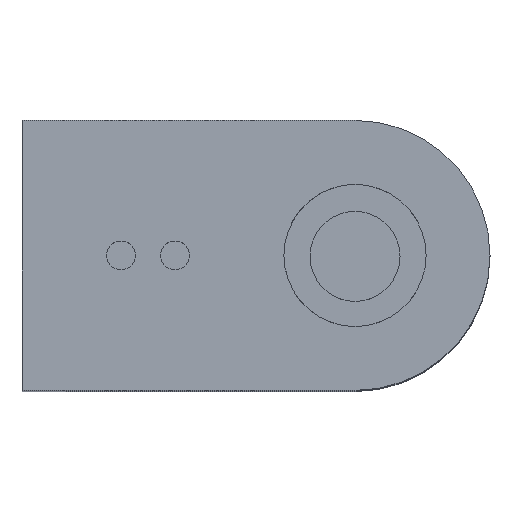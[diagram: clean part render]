
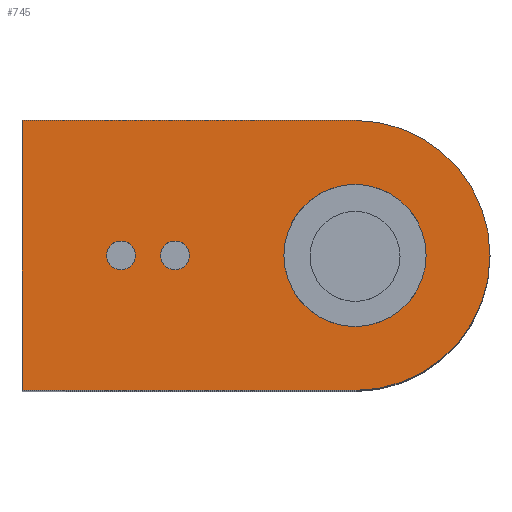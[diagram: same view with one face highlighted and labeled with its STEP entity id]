
A CAD part, top view. The second image highlights one B-rep face of the part: STEP entity #745.
In plain terms, the highlighted planar face has unit normal (0, 0, 1).
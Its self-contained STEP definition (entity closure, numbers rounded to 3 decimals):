
#531 = EDGE_CURVE('',#532,#532,#534,.T.);
#532 = VERTEX_POINT('',#533);
#533 = CARTESIAN_POINT('',(3.95,0.,7.));
#534 = CIRCLE('',#535,3.95);
#535 = AXIS2_PLACEMENT_3D('',#536,#537,#538);
#536 = CARTESIAN_POINT('',(0.,0.,7.));
#537 = DIRECTION('',(0.,0.,1.));
#538 = DIRECTION('',(1.,0.,-0.));
#592 = VERTEX_POINT('',#593);
#593 = CARTESIAN_POINT('',(0.,7.5,7.));
#599 = EDGE_CURVE('',#600,#592,#602,.T.);
#600 = VERTEX_POINT('',#601);
#601 = CARTESIAN_POINT('',(7.5,0.,7.));
#602 = CIRCLE('',#603,7.5);
#603 = AXIS2_PLACEMENT_3D('',#604,#605,#606);
#604 = CARTESIAN_POINT('',(0.,0.,7.));
#605 = DIRECTION('',(0.,0.,1.));
#606 = DIRECTION('',(1.,0.,-0.));
#608 = EDGE_CURVE('',#609,#600,#611,.T.);
#609 = VERTEX_POINT('',#610);
#610 = CARTESIAN_POINT('',(0.,-7.5,7.));
#611 = CIRCLE('',#612,7.5);
#612 = AXIS2_PLACEMENT_3D('',#613,#614,#615);
#613 = CARTESIAN_POINT('',(0.,0.,7.));
#614 = DIRECTION('',(0.,0.,1.));
#615 = DIRECTION('',(1.,0.,-0.));
#635 = VERTEX_POINT('',#636);
#636 = CARTESIAN_POINT('',(-18.5,-7.5,7.));
#642 = EDGE_CURVE('',#635,#643,#645,.T.);
#643 = VERTEX_POINT('',#644);
#644 = CARTESIAN_POINT('',(-18.5,7.5,7.));
#645 = LINE('',#646,#647);
#646 = CARTESIAN_POINT('',(-18.5,-7.5,7.));
#647 = VECTOR('',#648,1.);
#648 = DIRECTION('',(-0.,1.,0.));
#695 = EDGE_CURVE('',#635,#609,#696,.T.);
#696 = LINE('',#697,#698);
#697 = CARTESIAN_POINT('',(-18.5,-7.5,7.));
#698 = VECTOR('',#699,1.);
#699 = DIRECTION('',(1.,0.,-0.));
#711 = EDGE_CURVE('',#643,#592,#712,.T.);
#712 = LINE('',#713,#714);
#713 = CARTESIAN_POINT('',(-18.5,7.5,7.));
#714 = VECTOR('',#715,1.);
#715 = DIRECTION('',(1.,0.,-0.));
#745 = ADVANCED_FACE('',(#746,#753,#756,#767),#778,.T.);
#746 = FACE_BOUND('',#747,.T.);
#747 = EDGE_LOOP('',(#748,#749,#750,#751,#752));
#748 = ORIENTED_EDGE('',*,*,#711,.F.);
#749 = ORIENTED_EDGE('',*,*,#642,.F.);
#750 = ORIENTED_EDGE('',*,*,#695,.T.);
#751 = ORIENTED_EDGE('',*,*,#608,.T.);
#752 = ORIENTED_EDGE('',*,*,#599,.T.);
#753 = FACE_BOUND('',#754,.T.);
#754 = EDGE_LOOP('',(#755));
#755 = ORIENTED_EDGE('',*,*,#531,.F.);
#756 = FACE_BOUND('',#757,.T.);
#757 = EDGE_LOOP('',(#758));
#758 = ORIENTED_EDGE('',*,*,#759,.F.);
#759 = EDGE_CURVE('',#760,#760,#762,.T.);
#760 = VERTEX_POINT('',#761);
#761 = CARTESIAN_POINT('',(-12.2,0.,7.));
#762 = CIRCLE('',#763,0.8);
#763 = AXIS2_PLACEMENT_3D('',#764,#765,#766);
#764 = CARTESIAN_POINT('',(-13.,0.,7.));
#765 = DIRECTION('',(0.,0.,1.));
#766 = DIRECTION('',(1.,0.,-0.));
#767 = FACE_BOUND('',#768,.T.);
#768 = EDGE_LOOP('',(#769));
#769 = ORIENTED_EDGE('',*,*,#770,.F.);
#770 = EDGE_CURVE('',#771,#771,#773,.T.);
#771 = VERTEX_POINT('',#772);
#772 = CARTESIAN_POINT('',(-9.2,0.,7.));
#773 = CIRCLE('',#774,0.8);
#774 = AXIS2_PLACEMENT_3D('',#775,#776,#777);
#775 = CARTESIAN_POINT('',(-10.,0.,7.));
#776 = DIRECTION('',(0.,0.,1.));
#777 = DIRECTION('',(1.,0.,-0.));
#778 = PLANE('',#779);
#779 = AXIS2_PLACEMENT_3D('',#780,#781,#782);
#780 = CARTESIAN_POINT('',(-6.788,0.,7.));
#781 = DIRECTION('',(0.,0.,1.));
#782 = DIRECTION('',(1.,0.,-0.));
